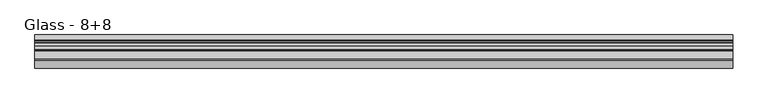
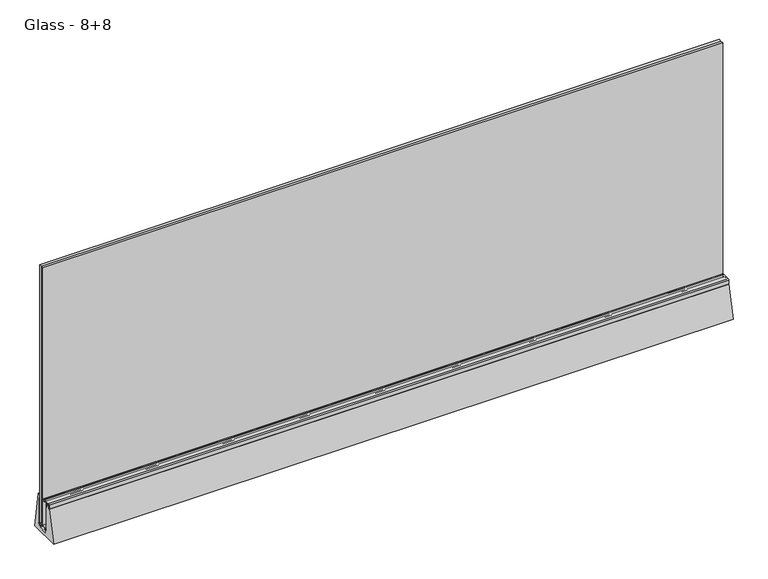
"""IFC4 building model written with IfcOpenShell, lengths in millimetres: proxy geometry, Construction_Slope-Glazing_Faraone_Linea-3-Mini : Glass - 8+8."""

from ifc_helpers import new_model, si_unit, point, frame, frame_2d, origin, place, context, project, spatial, polyline, circle_curve, trimmed, segment, composite_curve, outline, extrude, source, transform, mapped, element, save


def glass_8_8_ba4766a3(model_context):
    return source(origin(), model_context, "Body", "SweptSolid", [
        extrude(outline(polyline([(1000.0, 23.8514845), (1000.0, 15.9014845), (-1000.0, 15.9014845), (-1000.0, 23.8514845), (1000.0, 23.8514845)])), frame((0.0, 0.0, 26.5097848), z_axis=(0.0, 0.0, 1.0), x_axis=(1.0, 0.0, 0.0)), (0.0, 0.0, 1.0), 800.0),
        extrude(outline(polyline([(1000.0, 14.3014845), (1000.0, 6.3514845), (-1000.0, 6.3514845), (-1000.0, 14.3014845), (1000.0, 14.3014845)])), frame((0.0, 0.0, 26.5097848), z_axis=(0.0, 0.0, 1.0), x_axis=(1.0, 0.0, 0.0)), (0.0, 0.0, 1.0), 800.0),
        extrude(outline(polyline([(21.0027951, 21.0097848), (22.0027951, 21.0097848), (21.0027951, 17.5097848), (18.5027951, 17.5097848), (18.5027951, 23.5097848), (-3.4544609, 23.5097848), (-3.4544609, 17.5097848), (-5.9544609, 17.5097848), (-6.9542334, 21.0097848), (-5.9544609, 21.0097848), (-5.9544609, 23.5100571), (-8.9999952, 23.5100571), (-8.9999952, 26.5097848), (23.8514845, 26.5097848), (23.8514845, 98.7598945), (26.4955126, 98.7598945), (26.4955126, 23.5097848), (21.0027951, 23.5097848), (21.0027951, 21.0097848)])), frame((-1000.0, 0.0, 0.0), z_axis=(1.0, 0.0, 0.0), x_axis=(0.0, 1.0, 0.0)), (0.0, 0.0, 1.0), 2000.0),
        extrude(outline(composite_curve([segment(trimmed(circle_curve(frame_2d((2.3741707, 109.8933639)), 0.5), [point((2.3741707, 110.3933639))], [point((2.8741707, 109.8933639))], False, "CARTESIAN"), True, "CONTINUOUS"), segment(polyline([(2.8741707, 109.8933639), (2.8741707, 107.7847909), (2.080513, 107.7847909), (2.080513, 109.0323883), (1.1824202, 109.0323883)]), True, "CONTINUOUS"), segment(trimmed(circle_curve(frame_2d((1.1824202, 108.5241255)), 0.5082627), [point((1.1824202, 109.0323883))], [point((0.6741575, 108.5241255))], True, "CARTESIAN"), True, "CONTINUOUS"), segment(polyline([(0.6741575, 108.5241255), (0.6741575, 104.040651)]), True, "CONTINUOUS"), segment(trimmed(circle_curve(frame_2d((1.1824202, 104.040651)), 0.5082627), [point((0.6741575, 104.040651))], [point((1.1824202, 103.5323883))], True, "CARTESIAN"), True, "CONTINUOUS"), segment(polyline([(1.1824202, 103.5323883), (2.080513, 103.5323883), (2.080513, 104.7799856), (2.8741707, 104.7799856), (2.8741707, 102.8323883)]), True, "CONTINUOUS"), segment(trimmed(circle_curve(frame_2d((2.3741707, 102.8323883)), 0.5), [point((2.8741707, 102.8323883))], [point((2.3741707, 102.3323883))], False, "CARTESIAN"), True, "CONTINUOUS"), segment(polyline([(2.3741707, 102.3323883), (-0.0258423, 102.3323883)]), True, "CONTINUOUS"), segment(trimmed(circle_curve(frame_2d((-0.0258423, 102.8323885)), 0.5000003), [point((-0.0258423, 102.3323883))], [point((-0.5258425, 102.8323885))], False, "CARTESIAN"), True, "CONTINUOUS"), segment(polyline([(-0.5258425, 102.8323885), (-0.5258425, 108.3933644)]), True, "CONTINUOUS"), segment(trimmed(circle_curve(frame_2d((-1.0258425, 108.3933644)), 0.5), [point((-0.5258425, 108.3933644))], [point((-1.0258425, 108.8933644))], True, "CARTESIAN"), True, "CONTINUOUS"), segment(polyline([(-1.0258425, 108.8933644), (-11.5017337, 108.8933644), (-11.5017337, 95.1380316), (-13.5888351, 95.1380316), (-13.5888351, 100.1818111), (-12.7017337, 100.1818111), (-12.7017337, 108.0933644)]), True, "CONTINUOUS"), segment(trimmed(circle_curve(frame_2d((-12.7017337, 108.4933644)), 0.4), [point((-12.7017337, 108.0933644))], [point((-12.7017337, 108.8933644))], True, "CARTESIAN"), True, "CONTINUOUS"), segment(polyline([(-12.7017337, 108.8933644), (-22.0267873, 108.8933644)]), True, "CONTINUOUS"), segment(trimmed(circle_curve(frame_2d((-22.0267873, 107.3933642)), 1.5000003), [point((-22.0267873, 108.8933644))], [point((-23.5267875, 107.3933642))], True, "CARTESIAN"), True, "CONTINUOUS"), segment(polyline([(-23.5267875, 107.3933642), (-23.5267875, 100.1818111), (-22.6462885, 100.1818111), (-22.6462885, 95.1374302), (-24.7267875, 95.1382255), (-24.7267875, 107.3933639)]), True, "CONTINUOUS"), segment(trimmed(circle_curve(frame_2d((-21.7267875, 107.3933639)), 3.0), [point((-24.7267875, 107.3933639))], [point((-21.7267875, 110.3933639))], False, "CARTESIAN"), True, "CONTINUOUS"), segment(polyline([(-21.7267875, 110.3933639), (2.3741707, 110.3933639)]), True, "CONTINUOUS")], self_intersect=False)), frame((-1000.0, 0.0, 0.0), z_axis=(1.0, 0.0, 0.0), x_axis=(0.0, 1.0, 0.0)), (0.0, 0.0, 1.0), 2000.0),
        extrude(outline(composite_curve([segment(polyline([(-47.4987038, 0.0), (-24.7300487, 95.1378278), (-22.4744479, 95.1378278), (-22.4744479, 103.0050058), (-13.7606757, 103.0050058), (-13.7606757, 95.1380316), (-11.4999492, 95.1380316), (-11.4999492, 23.5100853), (-6.5000411, 23.5100853), (-6.5000411, 21.5106384), (-11.5002842, 21.5106384), (-6.3392177, 10.5100582), (21.4008273, 10.5098183), (26.8963028, 21.5099451), (21.4999589, 21.5099451), (21.4999589, 23.5097848), (26.4996909, 23.5097848), (26.4947523, 109.9810078), (30.5938434, 109.9810078)]), True, "CONTINUOUS"), segment(trimmed(circle_curve(frame_2d((30.5938434, 109.0417285)), 0.9392792), [point((30.5938434, 109.9810078))], [point((31.5233799, 109.1766636))], False, "CARTESIAN"), True, "CONTINUOUS"), segment(polyline([(31.5233799, 109.1766636), (47.3718822, 0.0), (-47.4987038, 0.0)]), True, "CONTINUOUS")], self_intersect=False)), frame((-1000.0, 0.0, 0.0), z_axis=(1.0, 0.0, 0.0), x_axis=(0.0, 1.0, 0.0)), (0.0, 0.0, 1.0), 2000.0),
    ])


if __name__ == "__main__":
    model = new_model("IFC4")
    model_context = context("Model", 3, world=origin())
    ifc_project = project(units=[si_unit("LENGTHUNIT", "METRE", prefix="MILLI")], contexts=[model_context])
    site = spatial("IfcSite", under=ifc_project)
    building = spatial("IfcBuilding", under=site)
    placement = place(None, origin())
    glass_8_8_shape = glass_8_8_ba4766a3(model_context)
    element("IfcBuildingElementProxy", 1, Name="Construction_Slope-Glazing_Faraone_Linea-3-Mini : Glass - 8+8", ObjectType="Construction_Slope-Glazing_Faraone_Linea-3-Mini : Glass - 8+8", at=placement, inside=building, context=model_context, shape_type="MappedRepresentation", body=[
        mapped(glass_8_8_shape, transform((0.0, 0.0, 0.0), x_axis=(1.0, 0.0, 0.0), y_axis=(0.0, 1.0, 0.0), z_axis=(0.0, 0.0, 1.0))),
    ])
    save(model, "model.ifc")
